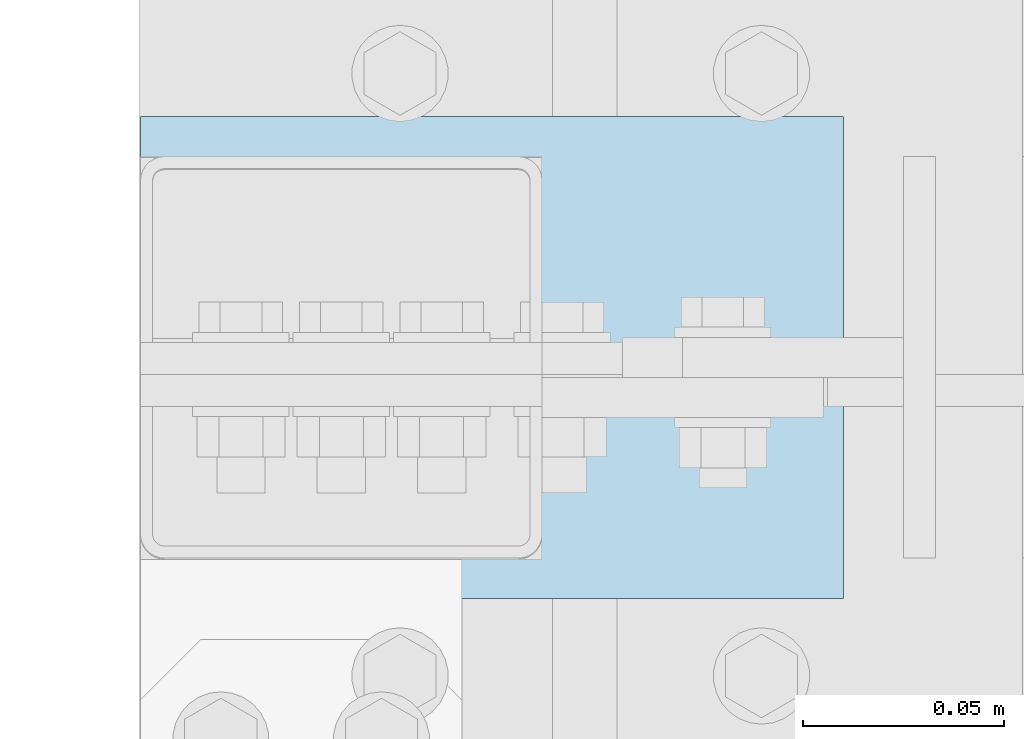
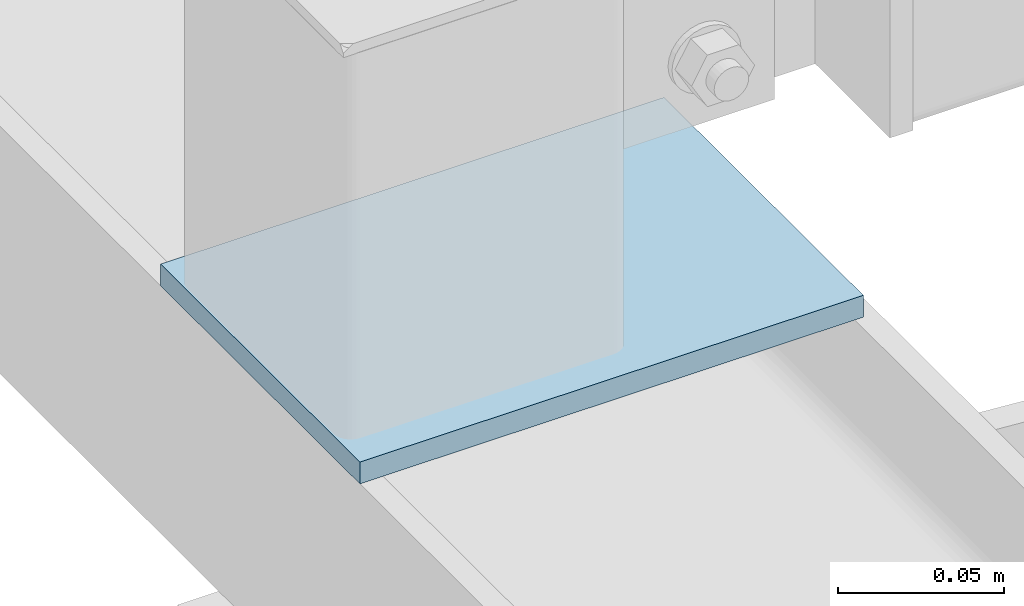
# One storey, part 111 of 271: 1 plate, 1 element without a shape of its own.
"""IFC2X3 building model written with IfcOpenShell, lengths in millimetres."""

from ifc_helpers import new_model, si_unit, frame, origin_with_axes, place, context, subcontext, project, spatial, polyline, outline, extrude, material, type_object, element, aggregate, save


model = new_model("IFC2X3")

# Units and contexts
model_context = context("Model", 3, precision=1e-05, world=origin_with_axes())
body_context = subcontext(model_context, "Body", "Model", "MODEL_VIEW")
ifc_project = project(units=[si_unit("LENGTHUNIT", "METRE", prefix="MILLI"), si_unit("AREAUNIT", "SQUARE_METRE"), si_unit("VOLUMEUNIT", "CUBIC_METRE"), si_unit("MASSUNIT", "GRAM", prefix="KILO"), si_unit("TIMEUNIT", "SECOND"), si_unit("PLANEANGLEUNIT", "RADIAN"), si_unit("SOLIDANGLEUNIT", "STERADIAN"), si_unit("THERMODYNAMICTEMPERATUREUNIT", "DEGREE_CELSIUS"), si_unit("LUMINOUSINTENSITYUNIT", "LUMEN")], contexts=[model_context])

# Site, building, storey
site_placement = place(None, origin_with_axes())
site = spatial("IfcSite", under=ifc_project, at=site_placement, Name="Undefined", CompositionType="ELEMENT")
building_placement = place(site_placement, origin_with_axes())
building = spatial("IfcBuilding", under=site, at=building_placement, Name="Undefined", CompositionType="ELEMENT")
storey_placement = place(building_placement, origin_with_axes())
storey = spatial("IfcBuildingStorey", under=building, at=storey_placement, Name="Undefined", CompositionType="ELEMENT", Elevation=0.0)

# Assembly, plate
assembly_placement = place(storey_placement, origin_with_axes())
assembly = element("IfcElementAssembly", 1, at=assembly_placement, inside=storey, AssemblyPlace="NOTDEFINED", PredefinedType="RIGID_FRAME")
ifc_material = material(Name="STEEL/S355JR")
plate_type = type_object("IfcPlateType", Name="BL8*120", PredefinedType="NOTDEFINED")
plate_placement = place(assembly_placement, frame((163.375687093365, 2859.32498425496, 20053.8499999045), z_axis=(0.0, 0.0, 1.0), x_axis=(-1.0, 0.0, 1.38777878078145e-17)))
plate = element("IfcPlate", 2, at=plate_placement, type_object=plate_type, material=ifc_material, Name="BLACHA", ObjectType="BL8*120", context=body_context, shape_type="SweptSolid", body=[
    extrude(outline(polyline([(0.0, 0.0), (175.0, 0.0), (175.0, 120.0), (0.0, 120.0), (0.0, 0.0)])), frame((0.0, 0.0, -4.0), z_axis=(0.0, 0.0, 1.0), x_axis=(1.0, 0.0, 0.0)), (0.0, 0.0, 1.0), 8.0),
])
aggregate(assembly, [plate])

save(model, "model.ifc")
